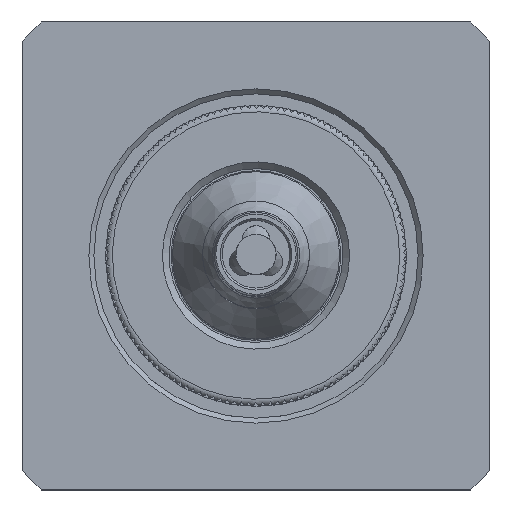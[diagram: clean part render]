
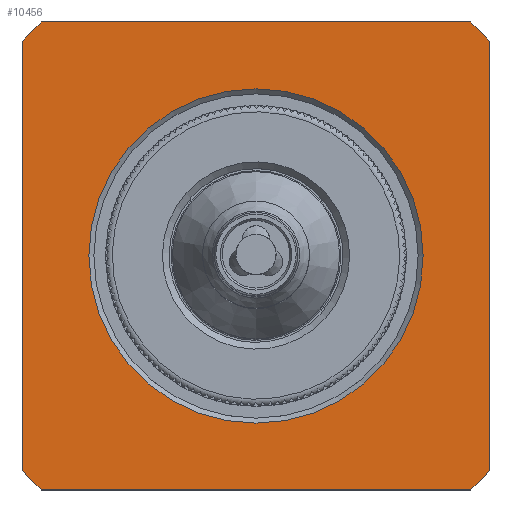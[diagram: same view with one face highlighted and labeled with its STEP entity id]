
A CAD part, top view. The second image highlights one B-rep face of the part: STEP entity #10456.
In plain terms, the highlighted planar face has unit normal (0, 0, 1).
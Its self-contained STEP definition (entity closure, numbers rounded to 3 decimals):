
#51=FACE_BOUND('',#2162,.T.);
#374=PLANE('',#11375);
#1609=FACE_OUTER_BOUND('',#2161,.T.);
#2161=EDGE_LOOP('',(#9813,#9814,#9815,#9816,#9817,#9818,#9819,#9820));
#2162=EDGE_LOOP('',(#9821));
#3316=LINE('',#21003,#3892);
#3317=LINE('',#21007,#3893);
#3318=LINE('',#21011,#3894);
#3319=LINE('',#21015,#3895);
#3892=VECTOR('',#13720,10.);
#3893=VECTOR('',#13723,10.);
#3894=VECTOR('',#13726,10.);
#3895=VECTOR('',#13729,10.);
#4276=CIRCLE('',#11374,25.);
#4277=CIRCLE('',#11376,47.5);
#4278=CIRCLE('',#11377,47.5);
#4279=CIRCLE('',#11378,47.5);
#4280=CIRCLE('',#11379,47.5);
#5286=VERTEX_POINT('',#20997);
#5287=VERTEX_POINT('',#21001);
#5288=VERTEX_POINT('',#21002);
#5289=VERTEX_POINT('',#21004);
#5290=VERTEX_POINT('',#21006);
#5291=VERTEX_POINT('',#21008);
#5292=VERTEX_POINT('',#21010);
#5293=VERTEX_POINT('',#21012);
#5294=VERTEX_POINT('',#21014);
#6805=EDGE_CURVE('',#5286,#5286,#4276,.T.);
#6806=EDGE_CURVE('',#5287,#5288,#3316,.T.);
#6807=EDGE_CURVE('',#5289,#5287,#4277,.T.);
#6808=EDGE_CURVE('',#5290,#5289,#3317,.T.);
#6809=EDGE_CURVE('',#5291,#5290,#4278,.T.);
#6810=EDGE_CURVE('',#5292,#5291,#3318,.T.);
#6811=EDGE_CURVE('',#5293,#5292,#4279,.T.);
#6812=EDGE_CURVE('',#5294,#5293,#3319,.T.);
#6813=EDGE_CURVE('',#5288,#5294,#4280,.T.);
#9813=ORIENTED_EDGE('',*,*,#6806,.F.);
#9814=ORIENTED_EDGE('',*,*,#6807,.F.);
#9815=ORIENTED_EDGE('',*,*,#6808,.F.);
#9816=ORIENTED_EDGE('',*,*,#6809,.F.);
#9817=ORIENTED_EDGE('',*,*,#6810,.F.);
#9818=ORIENTED_EDGE('',*,*,#6811,.F.);
#9819=ORIENTED_EDGE('',*,*,#6812,.F.);
#9820=ORIENTED_EDGE('',*,*,#6813,.F.);
#9821=ORIENTED_EDGE('',*,*,#6805,.F.);
#10456=ADVANCED_FACE('',(#1609,#51),#374,.T.);
#11374=AXIS2_PLACEMENT_3D('',#20999,#13716,#13717);
#11375=AXIS2_PLACEMENT_3D('',#21000,#13718,#13719);
#11376=AXIS2_PLACEMENT_3D('',#21005,#13721,#13722);
#11377=AXIS2_PLACEMENT_3D('',#21009,#13724,#13725);
#11378=AXIS2_PLACEMENT_3D('',#21013,#13727,#13728);
#11379=AXIS2_PLACEMENT_3D('',#21016,#13730,#13731);
#13716=DIRECTION('center_axis',(0.,0.,
1.));
#13717=DIRECTION('ref_axis',(0.,1.,0.));
#13718=DIRECTION('center_axis',(0.,0.,
1.));
#13719=DIRECTION('ref_axis',(-1.,0.,0.));
#13720=DIRECTION('',(0.,-1.,0.));
#13721=DIRECTION('center_axis',(0.,0.,
-1.));
#13722=DIRECTION('ref_axis',(0.676,0.737,0.));
#13723=DIRECTION('',(1.,0.,0.));
#13724=DIRECTION('center_axis',(0.,0.,
-1.));
#13725=DIRECTION('ref_axis',(-0.737,0.676,0.));
#13726=DIRECTION('',(0.,1.,0.));
#13727=DIRECTION('center_axis',(0.,0.,
-1.));
#13728=DIRECTION('ref_axis',(-0.676,-0.737,0.));
#13729=DIRECTION('',(-1.,0.,0.));
#13730=DIRECTION('center_axis',(0.,0.,
-1.));
#13731=DIRECTION('ref_axis',(0.737,-0.676,0.));
#20997=CARTESIAN_POINT('',(0.,75.,172.));
#20999=CARTESIAN_POINT('Origin',(0.,100.,
172.));
#21000=CARTESIAN_POINT('Origin',(0.,76.,
172.));
#21001=CARTESIAN_POINT('',(35.,132.113,172.));
#21002=CARTESIAN_POINT('',(35.,67.887,172.));
#21003=CARTESIAN_POINT('',(35.,83.943,172.));
#21004=CARTESIAN_POINT('',(32.113,135.,172.));
#21005=CARTESIAN_POINT('Origin',(0.,100.,
172.));
#21006=CARTESIAN_POINT('',(-32.113,135.,172.));
#21007=CARTESIAN_POINT('',(16.057,135.,172.));
#21008=CARTESIAN_POINT('',(-35.,132.113,172.));
#21009=CARTESIAN_POINT('Origin',(0.,100.,
172.));
#21010=CARTESIAN_POINT('',(-35.,67.887,172.));
#21011=CARTESIAN_POINT('',(-35.,116.057,172.));
#21012=CARTESIAN_POINT('',(-32.113,65.,172.));
#21013=CARTESIAN_POINT('Origin',(0.,100.,
172.));
#21014=CARTESIAN_POINT('',(32.113,65.,172.));
#21015=CARTESIAN_POINT('',(-16.057,65.,172.));
#21016=CARTESIAN_POINT('Origin',(0.,100.,
172.));
